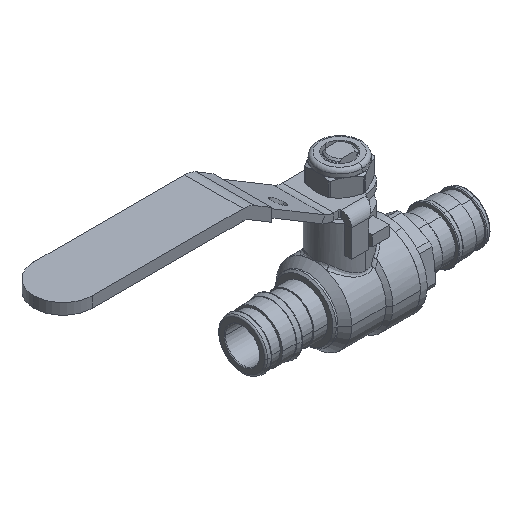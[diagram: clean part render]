
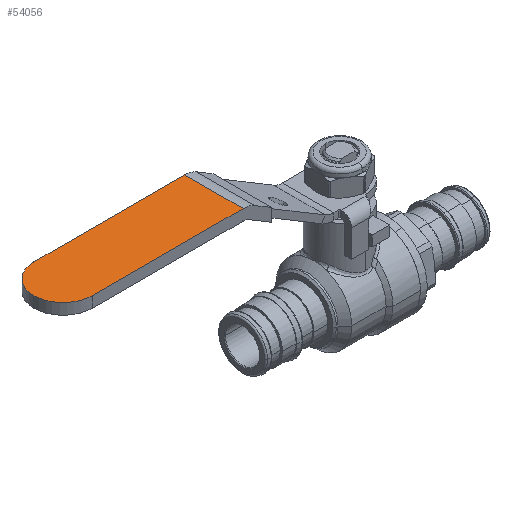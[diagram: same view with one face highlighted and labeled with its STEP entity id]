
A CAD part, isometric view. The second image highlights one B-rep face of the part: STEP entity #54056.
In plain terms, the highlighted planar face has unit normal (0, 0, 1).
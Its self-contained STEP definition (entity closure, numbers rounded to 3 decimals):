
#53540 = PLANE('',#53541);
#53541 = AXIS2_PLACEMENT_3D('',#53542,#53543,#53544);
#53542 = CARTESIAN_POINT('',(-36.668,-8.5,
    36.379));
#53543 = DIRECTION('',(0.,1.,0.));
#53544 = DIRECTION('',(0.,0.,-1.));
#53569 = CYLINDRICAL_SURFACE('',#53570,8.5);
#53570 = AXIS2_PLACEMENT_3D('',#53571,#53572,#53573);
#53571 = CARTESIAN_POINT('',(-80.604,0.,
    39.779));
#53572 = DIRECTION('',(0.,0.,-1.));
#53573 = DIRECTION('',(1.,0.,0.));
#53598 = CYLINDRICAL_SURFACE('',#53599,8.5);
#53599 = AXIS2_PLACEMENT_3D('',#53600,#53601,#53602);
#53600 = CARTESIAN_POINT('',(-80.604,0.,
    36.379));
#53601 = DIRECTION('',(0.,0.,1.));
#53602 = DIRECTION('',(-1.,0.,0.));
#53626 = PLANE('',#53627);
#53627 = AXIS2_PLACEMENT_3D('',#53628,#53629,#53630);
#53628 = CARTESIAN_POINT('',(-36.668,8.5,
    36.379));
#53629 = DIRECTION('',(0.,1.,0.));
#53630 = DIRECTION('',(0.,0.,-1.));
#53946 = CYLINDRICAL_SURFACE('',#53947,6.6);
#53947 = AXIS2_PLACEMENT_3D('',#53948,#53949,#53950);
#53948 = CARTESIAN_POINT('',(-36.668,-8.5,
    36.379));
#53949 = DIRECTION('',(0.,1.,0.));
#53950 = DIRECTION('',(0.,0.,-1.));
#53984 = VERTEX_POINT('',#53985);
#53985 = CARTESIAN_POINT('',(-36.668,8.5,
    42.979));
#54007 = EDGE_CURVE('',#54008,#53984,#54010,.T.);
#54008 = VERTEX_POINT('',#54009);
#54009 = CARTESIAN_POINT('',(-36.668,-8.5,
    42.979));
#54010 = SURFACE_CURVE('',#54011,(#54015,#54022),.PCURVE_S1.);
#54011 = LINE('',#54012,#54013);
#54012 = CARTESIAN_POINT('',(-36.668,-8.5,
    42.979));
#54013 = VECTOR('',#54014,1.);
#54014 = DIRECTION('',(0.,1.,0.));
#54015 = PCURVE('',#53946,#54016);
#54016 = DEFINITIONAL_REPRESENTATION('',(#54017),#54021);
#54017 = LINE('',#54018,#54019);
#54018 = CARTESIAN_POINT('',(3.142,0.));
#54019 = VECTOR('',#54020,1.);
#54020 = DIRECTION('',(0.,1.));
#54021 = ( GEOMETRIC_REPRESENTATION_CONTEXT(2) 
PARAMETRIC_REPRESENTATION_CONTEXT() REPRESENTATION_CONTEXT('2D SPACE',''
  ) );
#54022 = PCURVE('',#54023,#54028);
#54023 = PLANE('',#54024);
#54024 = AXIS2_PLACEMENT_3D('',#54025,#54026,#54027);
#54025 = CARTESIAN_POINT('',(-89.104,-8.5,
    42.979));
#54026 = DIRECTION('',(0.,0.,1.));
#54027 = DIRECTION('',(-1.,0.,0.));
#54028 = DEFINITIONAL_REPRESENTATION('',(#54029),#54033);
#54029 = LINE('',#54030,#54031);
#54030 = CARTESIAN_POINT('',(-52.436,-0.));
#54031 = VECTOR('',#54032,1.);
#54032 = DIRECTION('',(0.,-1.));
#54033 = ( GEOMETRIC_REPRESENTATION_CONTEXT(2) 
PARAMETRIC_REPRESENTATION_CONTEXT() REPRESENTATION_CONTEXT('2D SPACE',''
  ) );
#54056 = ADVANCED_FACE('',(#54057),#54023,.T.);
#54057 = FACE_BOUND('',#54058,.T.);
#54058 = EDGE_LOOP('',(#54059,#54085,#54109,#54130,#54131));
#54059 = ORIENTED_EDGE('',*,*,#54060,.T.);
#54060 = EDGE_CURVE('',#54061,#54063,#54065,.T.);
#54061 = VERTEX_POINT('',#54062);
#54062 = CARTESIAN_POINT('',(-80.604,8.5,
    42.979));
#54063 = VERTEX_POINT('',#54064);
#54064 = CARTESIAN_POINT('',(-89.104,0.,
    42.979));
#54065 = SURFACE_CURVE('',#54066,(#54071,#54078),.PCURVE_S1.);
#54066 = CIRCLE('',#54067,8.5);
#54067 = AXIS2_PLACEMENT_3D('',#54068,#54069,#54070);
#54068 = CARTESIAN_POINT('',(-80.604,0.,
    42.979));
#54069 = DIRECTION('',(0.,0.,1.));
#54070 = DIRECTION('',(-1.,0.,0.));
#54071 = PCURVE('',#54023,#54072);
#54072 = DEFINITIONAL_REPRESENTATION('',(#54073),#54077);
#54073 = CIRCLE('',#54074,8.5);
#54074 = AXIS2_PLACEMENT_2D('',#54075,#54076);
#54075 = CARTESIAN_POINT('',(-8.5,-8.5));
#54076 = DIRECTION('',(1.,0.));
#54077 = ( GEOMETRIC_REPRESENTATION_CONTEXT(2) 
PARAMETRIC_REPRESENTATION_CONTEXT() REPRESENTATION_CONTEXT('2D SPACE',''
  ) );
#54078 = PCURVE('',#53598,#54079);
#54079 = DEFINITIONAL_REPRESENTATION('',(#54080),#54084);
#54080 = LINE('',#54081,#54082);
#54081 = CARTESIAN_POINT('',(0.,6.6));
#54082 = VECTOR('',#54083,1.);
#54083 = DIRECTION('',(1.,0.));
#54084 = ( GEOMETRIC_REPRESENTATION_CONTEXT(2) 
PARAMETRIC_REPRESENTATION_CONTEXT() REPRESENTATION_CONTEXT('2D SPACE',''
  ) );
#54085 = ORIENTED_EDGE('',*,*,#54086,.T.);
#54086 = EDGE_CURVE('',#54063,#54087,#54089,.T.);
#54087 = VERTEX_POINT('',#54088);
#54088 = CARTESIAN_POINT('',(-80.604,-8.5,
    42.979));
#54089 = SURFACE_CURVE('',#54090,(#54095,#54102),.PCURVE_S1.);
#54090 = CIRCLE('',#54091,8.5);
#54091 = AXIS2_PLACEMENT_3D('',#54092,#54093,#54094);
#54092 = CARTESIAN_POINT('',(-80.604,0.,
    42.979));
#54093 = DIRECTION('',(0.,0.,1.));
#54094 = DIRECTION('',(-1.,0.,0.));
#54095 = PCURVE('',#54023,#54096);
#54096 = DEFINITIONAL_REPRESENTATION('',(#54097),#54101);
#54097 = CIRCLE('',#54098,8.5);
#54098 = AXIS2_PLACEMENT_2D('',#54099,#54100);
#54099 = CARTESIAN_POINT('',(-8.5,-8.5));
#54100 = DIRECTION('',(1.,0.));
#54101 = ( GEOMETRIC_REPRESENTATION_CONTEXT(2) 
PARAMETRIC_REPRESENTATION_CONTEXT() REPRESENTATION_CONTEXT('2D SPACE',''
  ) );
#54102 = PCURVE('',#53569,#54103);
#54103 = DEFINITIONAL_REPRESENTATION('',(#54104),#54108);
#54104 = LINE('',#54105,#54106);
#54105 = CARTESIAN_POINT('',(3.142,-3.2));
#54106 = VECTOR('',#54107,1.);
#54107 = DIRECTION('',(-1.,0.));
#54108 = ( GEOMETRIC_REPRESENTATION_CONTEXT(2) 
PARAMETRIC_REPRESENTATION_CONTEXT() REPRESENTATION_CONTEXT('2D SPACE',''
  ) );
#54109 = ORIENTED_EDGE('',*,*,#54110,.T.);
#54110 = EDGE_CURVE('',#54087,#54008,#54111,.T.);
#54111 = SURFACE_CURVE('',#54112,(#54116,#54123),.PCURVE_S1.);
#54112 = LINE('',#54113,#54114);
#54113 = CARTESIAN_POINT('',(-89.104,-8.5,
    42.979));
#54114 = VECTOR('',#54115,1.);
#54115 = DIRECTION('',(1.,0.,0.));
#54116 = PCURVE('',#54023,#54117);
#54117 = DEFINITIONAL_REPRESENTATION('',(#54118),#54122);
#54118 = LINE('',#54119,#54120);
#54119 = CARTESIAN_POINT('',(0.,-0.));
#54120 = VECTOR('',#54121,1.);
#54121 = DIRECTION('',(-1.,-0.));
#54122 = ( GEOMETRIC_REPRESENTATION_CONTEXT(2) 
PARAMETRIC_REPRESENTATION_CONTEXT() REPRESENTATION_CONTEXT('2D SPACE',''
  ) );
#54123 = PCURVE('',#53540,#54124);
#54124 = DEFINITIONAL_REPRESENTATION('',(#54125),#54129);
#54125 = LINE('',#54126,#54127);
#54126 = CARTESIAN_POINT('',(-6.6,52.436));
#54127 = VECTOR('',#54128,1.);
#54128 = DIRECTION('',(0.,-1.));
#54129 = ( GEOMETRIC_REPRESENTATION_CONTEXT(2) 
PARAMETRIC_REPRESENTATION_CONTEXT() REPRESENTATION_CONTEXT('2D SPACE',''
  ) );
#54130 = ORIENTED_EDGE('',*,*,#54007,.T.);
#54131 = ORIENTED_EDGE('',*,*,#54132,.F.);
#54132 = EDGE_CURVE('',#54061,#53984,#54133,.T.);
#54133 = SURFACE_CURVE('',#54134,(#54138,#54145),.PCURVE_S1.);
#54134 = LINE('',#54135,#54136);
#54135 = CARTESIAN_POINT('',(-89.104,8.5,
    42.979));
#54136 = VECTOR('',#54137,1.);
#54137 = DIRECTION('',(1.,0.,0.));
#54138 = PCURVE('',#54023,#54139);
#54139 = DEFINITIONAL_REPRESENTATION('',(#54140),#54144);
#54140 = LINE('',#54141,#54142);
#54141 = CARTESIAN_POINT('',(0.,-17.));
#54142 = VECTOR('',#54143,1.);
#54143 = DIRECTION('',(-1.,-0.));
#54144 = ( GEOMETRIC_REPRESENTATION_CONTEXT(2) 
PARAMETRIC_REPRESENTATION_CONTEXT() REPRESENTATION_CONTEXT('2D SPACE',''
  ) );
#54145 = PCURVE('',#53626,#54146);
#54146 = DEFINITIONAL_REPRESENTATION('',(#54147),#54151);
#54147 = LINE('',#54148,#54149);
#54148 = CARTESIAN_POINT('',(-6.6,52.436));
#54149 = VECTOR('',#54150,1.);
#54150 = DIRECTION('',(0.,-1.));
#54151 = ( GEOMETRIC_REPRESENTATION_CONTEXT(2) 
PARAMETRIC_REPRESENTATION_CONTEXT() REPRESENTATION_CONTEXT('2D SPACE',''
  ) );
